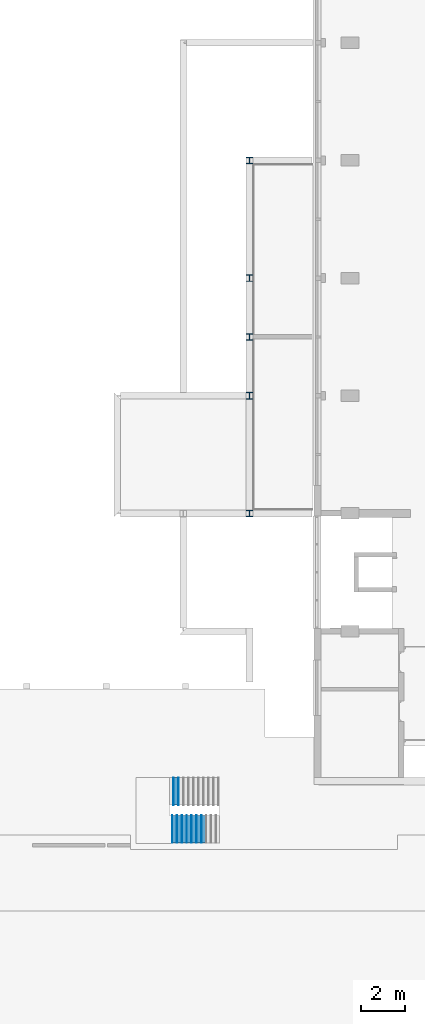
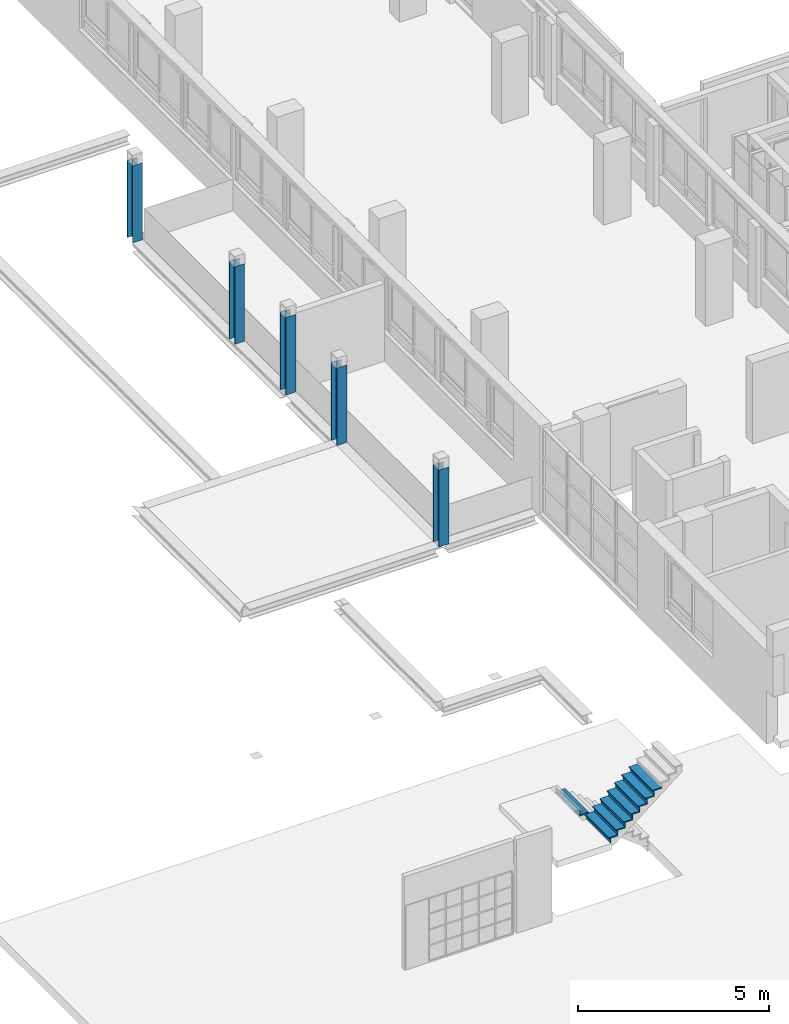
# One storey, part 4 of 22: 17 members, 5 columns, 2 elements without a shape of their own.
"""IFC2X3 building model written with IfcOpenShell, lengths in millimetres."""

import ifcopenshell
import ifcopenshell.guid

model = None  # the IFC model being written
_history = None  # IfcOwnerHistory: only IFC2X3 demands one
_inside = {}  # id of a spatial element -> (the spatial element, [elements in it])
_under = {}  # id of a project, library or spatial element -> (it, [spatial elements below it])
_declared = {}  # id of a project -> (the project, [libraries it declares])
_typed = {}  # id of a type object -> (the type object, [elements of that type])
_made_of = {}  # id of a material, layer set ... -> (it, [elements and type objects made of it])


def new_model(schema):
    """Start an empty IFC model of exactly this schema.

    Asked for "IFC4X3", IfcOpenShell would pick the latest addendum, in which some entities
    have other attributes; the version numbers below select the first issue.
    IFC2X3 requires an IfcOwnerHistory on every rooted entity: one is made here for all.
    """
    global model, _history
    if schema == "IFC4X3":
        model = ifcopenshell.file(schema_version=(4, 3, 0, 0))
    else:
        model = ifcopenshell.file(schema=schema)
    _inside.clear()
    _under.clear()
    _declared.clear()
    _typed.clear()
    _made_of.clear()
    _history = None
    if model.schema == "IFC2X3":
        org = make("IfcOrganization", Name="unknown")
        user = make(
            "IfcPersonAndOrganization",
            ThePerson=make("IfcPerson", FamilyName="unknown"),
            TheOrganization=org,
        )
        app = make(
            "IfcApplication",
            ApplicationDeveloper=org,
            Version="unknown",
            ApplicationFullName="unknown",
            ApplicationIdentifier="unknown",
        )
        _history = make(
            "IfcOwnerHistory",
            OwningUser=user,
            OwningApplication=app,
            ChangeAction="ADDED",
            CreationDate=0,
        )
    return model


def make(cls, **values):
    """One entity of the class cls with the attributes given. An attribute that is None is left unset."""
    return model.create_entity(
        cls, **{name: value for name, value in values.items() if value is not None}
    )


def entity(cls, *values):
    """Any entity or typed value of the class cls, its attributes in the order of the schema. None: left unset."""
    e = model.create_entity(cls)
    for i, value in enumerate(values):
        if value is not None:
            e[i] = value
    return e


def rooted(cls, **values):
    """An entity with a GlobalId (a new one), such as an element, a storey or a relation."""
    return make(cls, GlobalId=ifcopenshell.guid.new(), OwnerHistory=_history, **values)


def si_unit(unit_type, name, prefix=None):
    """IfcSIUnit, for example si_unit("LENGTHUNIT", "METRE", prefix="MILLI")."""
    return make("IfcSIUnit", UnitType=unit_type, Prefix=prefix, Name=name)


def converted_unit(unit_type, name, factor, base, dimensions=None, offset=None):
    """IfcConversionBasedUnit, such as the inch: factor (a typed value) times the base unit."""
    return make(
        "IfcConversionBasedUnit"
        if offset is None
        else "IfcConversionBasedUnitWithOffset",
        ConversionOffset=offset,
        Dimensions=None
        if dimensions is None
        else entity("IfcDimensionalExponents", *dimensions),
        UnitType=unit_type,
        Name=name,
        ConversionFactor=make(
            "IfcMeasureWithUnit", ValueComponent=factor, UnitComponent=base
        ),
    )


def derived_unit(unit_type, elements):
    """IfcDerivedUnit: a product of units, each with its exponent."""
    return make(
        "IfcDerivedUnit",
        Elements=[
            make("IfcDerivedUnitElement", Unit=unit, Exponent=power)
            for unit, power in elements
        ],
        UnitType=unit_type,
    )


def money_unit(currency):
    """IfcMonetaryUnit."""
    return make("IfcMonetaryUnit", Currency=currency)


def assignment(units):
    """IfcUnitAssignment: the units of a project."""
    return None if units is None else make("IfcUnitAssignment", Units=units)


def point(xyz):
    """IfcCartesianPoint."""
    return None if xyz is None else make("IfcCartesianPoint", Coordinates=xyz)


def direction(xyz):
    """IfcDirection."""
    return None if xyz is None else make("IfcDirection", DirectionRatios=xyz)


def frame(location, z_axis=None, x_axis=None):
    """IfcAxis2Placement3D, a coordinate frame: its origin and axes. An axis left out is left unset."""
    return make(
        "IfcAxis2Placement3D",
        Location=point(location),
        Axis=direction(z_axis),
        RefDirection=direction(x_axis),
    )


def origin_with_axes():
    """The frame at (0, 0, 0) with the z axis (0, 0, 1) and the x axis (1, 0, 0) written out."""
    return frame((0.0, 0.0, 0.0), z_axis=(0.0, 0.0, 1.0), x_axis=(1.0, 0.0, 0.0))


def place(relative_to, where):
    """IfcLocalPlacement: puts the frame where relative to a parent placement (None: the world)."""
    return make(
        "IfcLocalPlacement", PlacementRelTo=relative_to, RelativePlacement=where
    )


def context(
    kind, dimensions, precision=None, world=None, true_north=None, identifier=None
):
    """IfcGeometricRepresentationContext, for example the 3D "Model" context."""
    return make(
        "IfcGeometricRepresentationContext",
        ContextIdentifier=identifier,
        ContextType=kind,
        CoordinateSpaceDimension=dimensions,
        Precision=precision,
        WorldCoordinateSystem=world,
        TrueNorth=true_north,
    )


def subcontext(parent, identifier, kind, view, scale=None):
    """IfcGeometricRepresentationSubContext, for example "Body" below "Model"."""
    return make(
        "IfcGeometricRepresentationSubContext",
        ContextIdentifier=identifier,
        ContextType=kind,
        ParentContext=parent,
        TargetScale=scale,
        TargetView=view,
    )


def project(units=None, contexts=None):
    """IfcProject with its units and contexts."""
    return rooted(
        "IfcProject",
        Name="project",
        RepresentationContexts=contexts,
        UnitsInContext=assignment(units),
    )


def spatial(cls, under=None, at=None, **own):
    """A site, building, storey or space (cls), placed at a placement, below another one or the project."""
    s = rooted(cls, ObjectPlacement=at, **own)
    if under is not None:
        _under.setdefault(under.id(), (under, []))[1].append(s)
    return s


def faces_of(points, faces, orient=None, outer=None):
    """IfcFace entities. A face is a list of loops; a loop is a list of indices into points, from 0.

    orient and outer hold one flag for each loop. By default every Orientation is true, the
    first loop of a face is its IfcFaceOuterBound and the others are IfcFaceBound.
    """
    made = []
    for i, loops in enumerate(faces):
        bounds = []
        for j, loop in enumerate(loops):
            is_outer = j == 0 if outer is None else outer[i][j]
            bounds.append(
                make(
                    "IfcFaceOuterBound" if is_outer else "IfcFaceBound",
                    Bound=make("IfcPolyLoop", Polygon=[points[k] for k in loop]),
                    Orientation=True if orient is None else orient[i][j],
                )
            )
        made.append(make("IfcFace", Bounds=bounds))
    return made


def faceted_brep(points, faces, orient=None, outer=None, voids=None):
    """IfcFacetedBrep: a solid bounded by flat faces; with voids (closed shells), ...WithVoids."""
    shared = [point(p) for p in points]
    hull = make("IfcClosedShell", CfsFaces=faces_of(shared, faces, orient, outer))
    if voids is None:
        return make("IfcFacetedBrep", Outer=hull)
    return make(
        "IfcFacetedBrepWithVoids",
        Outer=hull,
        Voids=[
            make(cls, CfsFaces=faces_of(shared, fs, o, b)) for cls, fs, o, b in voids
        ],
    )


def shape(context_of_items, identifier, shape_type, items):
    """IfcShapeRepresentation: the items that make up one representation, for example the "Body"."""
    return make(
        "IfcShapeRepresentation",
        ContextOfItems=context_of_items,
        RepresentationIdentifier=identifier,
        RepresentationType=shape_type,
        Items=items,
    )


def material(Name=None, Category=None):
    """IfcMaterial."""
    return make("IfcMaterial", Name=Name, Category=Category)


def made_of(thing, what):
    """Note that an element or type object is made of a material, layer set ...; save() writes the relation."""
    if what is not None:
        _made_of.setdefault(what.id(), (what, []))[1].append(thing)
    return thing


def type_object(cls, material=None, **own):
    """A type object (cls), such as IfcWallType, which elements share."""
    return made_of(rooted(cls, **own), material)


def element(
    cls,
    number,
    at=None,
    inside=None,
    cuts=None,
    type_object=None,
    material=None,
    context=None,
    identifier="Body",
    shape_type=None,
    held_by="IfcProductDefinitionShape",
    body=None,
    shapes=None,
    **own,
):
    """One element of the class cls, such as IfcWall. Its Tag is "e" and its number.

    at: its placement. inside: the storey or other place that contains it. cuts: it is an
    opening in that element (IfcRelVoidsElement). A single representation is given by context,
    identifier, shape_type and body (its items); several are given by shapes. held_by: the class
    of the entity that holds the representations. save() writes the other relations.
    """
    e = rooted(cls, Tag="e%d" % number, ObjectPlacement=at, **own)
    if body is not None:
        shapes = [shape(context, identifier, shape_type, body)]
    if shapes is not None:
        e.Representation = make(held_by, Representations=shapes)
    if inside is not None:
        _inside.setdefault(inside.id(), (inside, []))[1].append(e)
    if cuts is not None:
        rooted(
            "IfcRelVoidsElement", RelatingBuildingElement=cuts, RelatedOpeningElement=e
        )
    if type_object is not None:
        _typed.setdefault(type_object.id(), (type_object, []))[1].append(e)
    return made_of(e, material)


def aggregate(whole, parts):
    """IfcRelAggregates: a whole, such as a stair, and the parts it consists of."""
    return rooted("IfcRelAggregates", RelatingObject=whole, RelatedObjects=parts)


def save(model, path):
    """Write the relations noted so far, then the file.

    IfcRelAggregates (storeys below a building ...), IfcRelContainedInSpatialStructure (elements
    in a storey), IfcRelDefinesByType, IfcRelAssociatesMaterial and IfcRelDeclares: one each for
    every whole, place, type object, material and project.
    """
    for whole, parts in _under.values():
        aggregate(whole, parts)
    for where, things in _inside.values():
        rooted(
            "IfcRelContainedInSpatialStructure",
            RelatedElements=things,
            RelatingStructure=where,
        )
    for kind, things in _typed.values():
        rooted("IfcRelDefinesByType", RelatedObjects=things, RelatingType=kind)
    for what, things in _made_of.values():
        rooted("IfcRelAssociatesMaterial", RelatedObjects=things, RelatingMaterial=what)
    for by, libraries in _declared.values():
        rooted("IfcRelDeclares", RelatingContext=by, RelatedDefinitions=libraries)
    model.write(path)


model = new_model("IFC2X3")

# Units and contexts
model_context = context("Model", 3, precision=0.01, world=origin_with_axes(), true_north=direction((0.0, 1.0)))
body_context = subcontext(model_context, "Body", "Model", "MODEL_VIEW")
ifc_project = project(units=[si_unit("LENGTHUNIT", "METRE", prefix="MILLI"), si_unit("AREAUNIT", "SQUARE_METRE"), si_unit("VOLUMEUNIT", "CUBIC_METRE"), converted_unit("PLANEANGLEUNIT", "DEGREE", entity("IfcPlaneAngleMeasure", 0.0174532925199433), si_unit("PLANEANGLEUNIT", "RADIAN"), dimensions=[0, 0, 0, 0, 0, 0, 0]), money_unit("EUR"), converted_unit("TIMEUNIT", "Year", entity("IfcTimeMeasure", 31557600.0), si_unit("TIMEUNIT", "SECOND"), dimensions=[0, 0, 1, 0, 0, 0, 0]), si_unit("MASSUNIT", "GRAM", prefix="KILO"), si_unit("THERMODYNAMICTEMPERATUREUNIT", "DEGREE_CELSIUS"), si_unit("LUMINOUSINTENSITYUNIT", "LUMEN"), si_unit("ENERGYUNIT", "JOULE", prefix="MEGA"), derived_unit("THERMALCONDUCTANCEUNIT", [(si_unit("POWERUNIT", "WATT"), 1), (si_unit("LENGTHUNIT", "METRE"), -1), (si_unit("THERMODYNAMICTEMPERATUREUNIT", "KELVIN"), -1)]), derived_unit("SPECIFICHEATCAPACITYUNIT", [(si_unit("ENERGYUNIT", "JOULE"), 1), (si_unit("MASSUNIT", "GRAM", prefix="KILO"), -1), (si_unit("THERMODYNAMICTEMPERATUREUNIT", "KELVIN"), -1)]), derived_unit("MASSDENSITYUNIT", [(si_unit("MASSUNIT", "GRAM", prefix="KILO"), 1), (si_unit("VOLUMEUNIT", "CUBIC_METRE"), -1)])], contexts=[model_context])

# Site, building, storey
site_placement = place(None, origin_with_axes())
site = spatial("IfcSite", under=ifc_project, at=site_placement, Name="Site", CompositionType="ELEMENT")
building_placement = place(site_placement, origin_with_axes())
building = spatial("IfcBuilding", under=site, at=building_placement, Name="Naam gebouw", CompositionType="ELEMENT")
storey_placement = place(building_placement, frame((0.0, 0.0, 8690.0), z_axis=(0.0, 0.0, 1.0), x_axis=(1.0, 0.0, 0.0)))
storey = spatial("IfcBuildingStorey", under=building, at=storey_placement, Name="2e verdieping V", CompositionType="ELEMENT", Elevation=8690.0)

# Columns
ifc_material_1 = material(Name="staal geanodiseerd RAL 7024")
column_type_1 = type_object("IfcColumnType", Name="NLRS_28_SCO_staal - kolom - HEB:HE300B", PredefinedType="COLUMN")
column_1_placement = place(storey_placement, frame((17291.00000002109, 35945.91242627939, 0.0), z_axis=(0.0, 0.0, 1.0), x_axis=(1.0, 0.0, 0.0)))
element("IfcColumn", 1, at=column_1_placement, inside=storey, type_object=column_type_1, material=ifc_material_1, Name="NLRS_28_SCO_staal - kolom - HEB:HE300B", ObjectType="COLUMN", context=body_context, shape_type="Brep", body=[
    faceted_brep([(-149.9999999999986, 149.9999999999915, 2470.000000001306), (-149.9999999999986, 149.9999999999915, 0.0), (-149.9999999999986, 130.9999999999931, 0.0), (-149.9999999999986, 130.9999999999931, 2470.000000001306), (150.0000000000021, 149.9999999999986, 2470.000000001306), (150.0000000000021, 149.9999999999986, 0.0), (149.9999999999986, 131.0000000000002, 0.0), (32.49999999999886, 131.0000000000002, 0.0), (19.0000000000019, 127.3826859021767, 0.0), (9.11731409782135, 117.4999999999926, 0.0), (5.500000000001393, 103.9999999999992, 0.0), (5.49999999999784, -103.9999999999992, 0.0), (9.11731409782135, -117.5000000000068, 0.0), (19.0000000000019, -127.3826859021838, 0.0), (32.49999999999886, -131.0000000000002, 0.0), (149.9999999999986, -131.0000000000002, 0.0), (150.0000000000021, -149.9999999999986, 0.0), (-149.9999999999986, -150.0000000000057, 0.0), (-149.9999999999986, -131.0000000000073, 0.0), (-32.49999999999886, -131.0000000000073, 0.0), (-18.99999999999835, -127.3826859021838, 0.0), (-9.11731409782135, -117.4999999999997, 0.0), (-5.500000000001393, -104.0000000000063, 0.0), (-5.49999999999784, 103.9999999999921, 0.0), (-9.11731409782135, 117.4999999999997, 0.0), (-18.99999999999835, 127.3826859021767, 0.0), (-32.49999999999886, 130.9999999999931, 0.0), (-32.49999999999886, 130.9999999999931, 2470.000000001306), (-18.99999999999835, 127.3826859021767, 2470.000000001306), (-9.11731409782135, 117.4999999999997, 2470.000000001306), (-5.49999999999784, 103.9999999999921, 2470.000000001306), (-5.500000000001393, -104.0000000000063, 2470.000000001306), (-9.11731409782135, -117.4999999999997, 2470.000000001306), (-18.99999999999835, -127.3826859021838, 2470.000000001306), (-32.49999999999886, -131.0000000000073, 2470.000000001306), (-149.9999999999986, -131.0000000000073, 2470.000000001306), (-149.9999999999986, -150.0000000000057, 2470.000000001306), (150.0000000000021, -149.9999999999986, 2470.000000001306), (149.9999999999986, -131.0000000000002, 2470.000000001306), (32.49999999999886, -131.0000000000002, 2470.000000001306), (19.0000000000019, -127.3826859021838, 2470.000000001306), (9.11731409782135, -117.5000000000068, 2470.000000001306), (5.49999999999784, -103.9999999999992, 2470.000000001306), (5.500000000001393, 103.9999999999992, 2470.000000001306), (9.11731409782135, 117.4999999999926, 2470.000000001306), (19.0000000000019, 127.3826859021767, 2470.000000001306), (32.49999999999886, 131.0000000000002, 2470.000000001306), (149.9999999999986, 131.0000000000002, 2470.000000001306)], [[[0, 1, 2, 3]], [[4, 5, 1, 0]], [[2, 1, 5, 6, 7, 8, 9, 10, 11, 12, 13, 14, 15, 16, 17, 18, 19, 20, 21, 22, 23, 24, 25, 26]], [[3, 2, 26, 27]], [[4, 0, 3, 27, 28, 29, 30, 31, 32, 33, 34, 35, 36, 37, 38, 39, 40, 41, 42, 43, 44, 45, 46, 47]], [[47, 6, 5, 4]], [[46, 7, 6, 47]], [[45, 8, 7, 46]], [[44, 9, 8, 45]], [[43, 10, 9, 44]], [[42, 11, 10, 43]], [[41, 12, 11, 42]], [[40, 13, 12, 41]], [[39, 14, 13, 40]], [[38, 15, 14, 39]], [[37, 16, 15, 38]], [[36, 17, 16, 37]], [[35, 18, 17, 36]], [[34, 19, 18, 35]], [[33, 20, 19, 34]], [[32, 21, 20, 33]], [[31, 22, 21, 32]], [[30, 23, 22, 31]], [[29, 24, 23, 30]], [[28, 25, 24, 29]], [[27, 26, 25, 28]]]),
])
column_2_placement = place(storey_placement, frame((17291.00000005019, 33285.912426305, 0.0), z_axis=(0.0, 0.0, 1.0), x_axis=(1.0, 0.0, 0.0)))
element("IfcColumn", 2, at=column_2_placement, inside=storey, type_object=column_type_1, material=ifc_material_1, Name="NLRS_28_SCO_staal - kolom - HEB:HE300B", ObjectType="COLUMN", context=body_context, shape_type="Brep", body=[
    faceted_brep([(-150.0000000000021, 149.9999999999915, 2470.000000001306), (-150.0000000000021, 149.9999999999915, 0.0), (-149.9999999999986, 130.9999999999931, 0.0), (-149.9999999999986, 130.9999999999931, 2470.000000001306), (149.9999999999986, 149.9999999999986, 2470.000000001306), (149.9999999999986, 149.9999999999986, 0.0), (149.9999999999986, 131.0000000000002, 0.0), (32.49999999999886, 131.0000000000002, 0.0), (18.99999999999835, 127.3826859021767, 0.0), (9.11731409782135, 117.4999999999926, 0.0), (5.500000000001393, 103.9999999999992, 0.0), (5.49999999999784, -103.9999999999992, 0.0), (9.11731409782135, -117.5000000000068, 0.0), (18.99999999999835, -127.3826859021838, 0.0), (32.49999999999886, -131.0000000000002, 0.0), (149.9999999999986, -131.0000000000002, 0.0), (149.9999999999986, -149.9999999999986, 0.0), (-150.0000000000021, -150.0000000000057, 0.0), (-149.9999999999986, -131.0000000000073, 0.0), (-32.49999999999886, -131.0000000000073, 0.0), (-19.0000000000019, -127.3826859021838, 0.0), (-9.11731409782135, -117.4999999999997, 0.0), (-5.500000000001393, -104.0000000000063, 0.0), (-5.49999999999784, 103.9999999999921, 0.0), (-9.11731409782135, 117.4999999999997, 0.0), (-19.0000000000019, 127.3826859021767, 0.0), (-32.49999999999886, 130.9999999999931, 0.0), (-32.49999999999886, 130.9999999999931, 2470.000000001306), (-19.0000000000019, 127.3826859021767, 2470.000000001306), (-9.11731409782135, 117.4999999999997, 2470.000000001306), (-5.49999999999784, 103.9999999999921, 2470.000000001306), (-5.500000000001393, -104.0000000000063, 2470.000000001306), (-9.11731409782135, -117.4999999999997, 2470.000000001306), (-19.0000000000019, -127.3826859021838, 2470.000000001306), (-32.49999999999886, -131.0000000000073, 2470.000000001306), (-149.9999999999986, -131.0000000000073, 2470.000000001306), (-150.0000000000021, -150.0000000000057, 2470.000000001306), (149.9999999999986, -149.9999999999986, 2470.000000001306), (149.9999999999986, -131.0000000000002, 2470.000000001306), (32.49999999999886, -131.0000000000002, 2470.000000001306), (18.99999999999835, -127.3826859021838, 2470.000000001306), (9.11731409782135, -117.5000000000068, 2470.000000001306), (5.49999999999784, -103.9999999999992, 2470.000000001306), (5.500000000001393, 103.9999999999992, 2470.000000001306), (9.11731409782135, 117.4999999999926, 2470.000000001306), (18.99999999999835, 127.3826859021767, 2470.000000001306), (32.49999999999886, 131.0000000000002, 2470.000000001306), (149.9999999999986, 131.0000000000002, 2470.000000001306)], [[[0, 1, 2, 3]], [[4, 5, 1, 0]], [[2, 1, 5, 6, 7, 8, 9, 10, 11, 12, 13, 14, 15, 16, 17, 18, 19, 20, 21, 22, 23, 24, 25, 26]], [[3, 2, 26, 27]], [[4, 0, 3, 27, 28, 29, 30, 31, 32, 33, 34, 35, 36, 37, 38, 39, 40, 41, 42, 43, 44, 45, 46, 47]], [[47, 6, 5, 4]], [[46, 7, 6, 47]], [[45, 8, 7, 46]], [[44, 9, 8, 45]], [[43, 10, 9, 44]], [[42, 11, 10, 43]], [[41, 12, 11, 42]], [[40, 13, 12, 41]], [[39, 14, 13, 40]], [[38, 15, 14, 39]], [[37, 16, 15, 38]], [[36, 17, 16, 37]], [[35, 18, 17, 36]], [[34, 19, 18, 35]], [[33, 20, 19, 34]], [[32, 21, 20, 33]], [[31, 22, 21, 32]], [[30, 23, 22, 31]], [[29, 24, 23, 30]], [[28, 25, 24, 29]], [[27, 26, 25, 28]]]),
])
column_3_placement = place(storey_placement, frame((17291.00000002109, 38615.9124263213, 0.0), z_axis=(0.0, 0.0, 1.0), x_axis=(1.0, 0.0, 0.0)))
element("IfcColumn", 3, at=column_3_placement, inside=storey, type_object=column_type_1, material=ifc_material_1, Name="NLRS_28_SCO_staal - kolom - HEB:HE300B", ObjectType="COLUMN", context=body_context, shape_type="Brep", body=[
    faceted_brep([(-149.9999999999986, 149.9999999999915, 2470.000000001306), (-149.9999999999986, 149.9999999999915, 0.0), (-149.9999999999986, 130.9999999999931, 0.0), (-149.9999999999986, 130.9999999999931, 2470.000000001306), (150.0000000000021, 149.9999999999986, 2470.000000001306), (150.0000000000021, 149.9999999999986, 0.0), (149.9999999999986, 131.0000000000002, 0.0), (32.49999999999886, 131.0000000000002, 0.0), (19.0000000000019, 127.3826859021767, 0.0), (9.11731409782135, 117.4999999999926, 0.0), (5.500000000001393, 103.9999999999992, 0.0), (5.500000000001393, -103.9999999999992, 0.0), (9.11731409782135, -117.5000000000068, 0.0), (19.0000000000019, -127.3826859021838, 0.0), (32.49999999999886, -131.0000000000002, 0.0), (149.9999999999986, -131.0000000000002, 0.0), (150.0000000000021, -149.9999999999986, 0.0), (-149.9999999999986, -150.0000000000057, 0.0), (-149.9999999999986, -131.0000000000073, 0.0), (-32.49999999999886, -131.0000000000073, 0.0), (-18.99999999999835, -127.3826859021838, 0.0), (-9.11731409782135, -117.4999999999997, 0.0), (-5.49999999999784, -104.0000000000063, 0.0), (-5.49999999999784, 103.9999999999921, 0.0), (-9.11731409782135, 117.4999999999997, 0.0), (-18.99999999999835, 127.3826859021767, 0.0), (-32.49999999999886, 130.9999999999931, 0.0), (-32.49999999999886, 130.9999999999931, 2470.000000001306), (-18.99999999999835, 127.3826859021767, 2470.000000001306), (-9.11731409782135, 117.4999999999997, 2470.000000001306), (-5.49999999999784, 103.9999999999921, 2470.000000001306), (-5.49999999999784, -104.0000000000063, 2470.000000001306), (-9.11731409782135, -117.4999999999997, 2470.000000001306), (-18.99999999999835, -127.3826859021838, 2470.000000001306), (-32.49999999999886, -131.0000000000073, 2470.000000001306), (-149.9999999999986, -131.0000000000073, 2470.000000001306), (-149.9999999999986, -150.0000000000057, 2470.000000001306), (150.0000000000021, -149.9999999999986, 2470.000000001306), (149.9999999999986, -131.0000000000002, 2470.000000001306), (32.49999999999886, -131.0000000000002, 2470.000000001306), (19.0000000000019, -127.3826859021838, 2470.000000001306), (9.11731409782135, -117.5000000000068, 2470.000000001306), (5.500000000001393, -103.9999999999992, 2470.000000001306), (5.500000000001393, 103.9999999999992, 2470.000000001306), (9.11731409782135, 117.4999999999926, 2470.000000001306), (19.0000000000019, 127.3826859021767, 2470.000000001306), (32.49999999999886, 131.0000000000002, 2470.000000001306), (149.9999999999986, 131.0000000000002, 2470.000000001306)], [[[0, 1, 2, 3]], [[4, 5, 1, 0]], [[2, 1, 5, 6, 7, 8, 9, 10, 11, 12, 13, 14, 15, 16, 17, 18, 19, 20, 21, 22, 23, 24, 25, 26]], [[3, 2, 26, 27]], [[4, 0, 3, 27, 28, 29, 30, 31, 32, 33, 34, 35, 36, 37, 38, 39, 40, 41, 42, 43, 44, 45, 46, 47]], [[47, 6, 5, 4]], [[46, 7, 6, 47]], [[45, 8, 7, 46]], [[44, 9, 8, 45]], [[43, 10, 9, 44]], [[42, 11, 10, 43]], [[41, 12, 11, 42]], [[40, 13, 12, 41]], [[39, 14, 13, 40]], [[38, 15, 14, 39]], [[37, 16, 15, 38]], [[36, 17, 16, 37]], [[35, 18, 17, 36]], [[34, 19, 18, 35]], [[33, 20, 19, 34]], [[32, 21, 20, 33]], [[31, 22, 21, 32]], [[30, 23, 22, 31]], [[29, 24, 23, 30]], [[28, 25, 24, 29]], [[27, 26, 25, 28]]]),
])
column_type_2 = type_object("IfcColumnType", Name="NLRS_28_SCO_staal - kolom - HEB:HE300B", PredefinedType="COLUMN")
column_4_placement = place(storey_placement, frame((17292.00000006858, 27955.91242634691, 0.0), z_axis=(0.0, 0.0, 1.0), x_axis=(1.0, 0.0, 0.0)))
element("IfcColumn", 4, at=column_4_placement, inside=storey, type_object=column_type_2, material=ifc_material_1, Name="NLRS_28_SCO_staal - kolom - HEB:HE300B", ObjectType="COLUMN", context=body_context, shape_type="Brep", body=[
    faceted_brep([(-149.9999999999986, 150.0000000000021, 2450.000000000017), (-149.9999999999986, 150.0000000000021, 0.0), (-149.9999999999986, 131.0000000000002, 0.0), (-149.9999999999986, 131.0000000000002, 2450.000000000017), (150.0000000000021, 150.0000000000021, 2450.000000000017), (150.0000000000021, 150.0000000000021, 0.0), (149.9999999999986, 131.0000000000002, 0.0), (32.49999999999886, 131.0000000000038, 0.0), (19.0000000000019, 127.3826859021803, 0.0), (9.11731409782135, 117.5000000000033, 0.0), (5.500000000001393, 103.9999999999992, 0.0), (5.49999999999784, -103.9999999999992, 0.0), (9.11731409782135, -117.4999999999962, 0.0), (19.0000000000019, -127.3826859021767, 0.0), (32.49999999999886, -130.9999999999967, 0.0), (149.9999999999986, -130.9999999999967, 0.0), (150.0000000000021, -149.9999999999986, 0.0), (-149.9999999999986, -149.9999999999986, 0.0), (-149.9999999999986, -130.9999999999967, 0.0), (-32.49999999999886, -130.9999999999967, 0.0), (-18.99999999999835, -127.3826859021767, 0.0), (-9.11731409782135, -117.4999999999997, 0.0), (-5.500000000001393, -103.9999999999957, 0.0), (-5.49999999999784, 104.0000000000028, 0.0), (-9.11731409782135, 117.4999999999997, 0.0), (-18.99999999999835, 127.3826859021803, 0.0), (-32.49999999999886, 131.0000000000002, 0.0), (-32.49999999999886, 131.0000000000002, 2450.000000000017), (-18.99999999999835, 127.3826859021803, 2450.000000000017), (-9.11731409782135, 117.4999999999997, 2450.000000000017), (-5.49999999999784, 104.0000000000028, 2450.000000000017), (-5.500000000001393, -103.9999999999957, 2450.000000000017), (-9.11731409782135, -117.4999999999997, 2450.000000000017), (-18.99999999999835, -127.3826859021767, 2450.000000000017), (-32.49999999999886, -130.9999999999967, 2450.000000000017), (-149.9999999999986, -130.9999999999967, 2450.000000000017), (-149.9999999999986, -149.9999999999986, 2450.000000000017), (150.0000000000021, -149.9999999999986, 2450.000000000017), (149.9999999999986, -130.9999999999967, 2450.000000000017), (32.49999999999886, -130.9999999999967, 2450.000000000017), (19.0000000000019, -127.3826859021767, 2450.000000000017), (9.11731409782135, -117.4999999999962, 2450.000000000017), (5.49999999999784, -103.9999999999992, 2450.000000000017), (5.500000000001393, 103.9999999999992, 2450.000000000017), (9.11731409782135, 117.5000000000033, 2450.000000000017), (19.0000000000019, 127.3826859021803, 2450.000000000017), (32.49999999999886, 131.0000000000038, 2450.000000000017), (149.9999999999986, 131.0000000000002, 2450.000000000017)], [[[0, 1, 2, 3]], [[4, 5, 1, 0]], [[2, 1, 5, 6, 7, 8, 9, 10, 11, 12, 13, 14, 15, 16, 17, 18, 19, 20, 21, 22, 23, 24, 25, 26]], [[3, 2, 26, 27]], [[4, 0, 3, 27, 28, 29, 30, 31, 32, 33, 34, 35, 36, 37, 38, 39, 40, 41, 42, 43, 44, 45, 46, 47]], [[47, 6, 5, 4]], [[46, 7, 6, 47]], [[45, 8, 7, 46]], [[44, 9, 8, 45]], [[43, 10, 9, 44]], [[42, 11, 10, 43]], [[41, 12, 11, 42]], [[40, 13, 12, 41]], [[39, 14, 13, 40]], [[38, 15, 14, 39]], [[37, 16, 15, 38]], [[36, 17, 16, 37]], [[35, 18, 17, 36]], [[34, 19, 18, 35]], [[33, 20, 19, 34]], [[32, 21, 20, 33]], [[31, 22, 21, 32]], [[30, 23, 22, 31]], [[29, 24, 23, 30]], [[28, 25, 24, 29]], [[27, 26, 25, 28]]]),
])
column_type_3 = type_object("IfcColumnType", Name="NLRS_28_SCO_staal - kolom - HEB:HE300B", PredefinedType="COLUMN")
column_5_placement = place(storey_placement, frame((17292.00000003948, 43945.91242627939, 0.0), z_axis=(0.0, 0.0, 1.0), x_axis=(0.0, -1.0, 0.0)))
element("IfcColumn", 5, at=column_5_placement, inside=storey, type_object=column_type_3, material=ifc_material_1, Name="NLRS_28_SCO_staal - kolom - HEB:HE300B", ObjectType="COLUMN", context=body_context, shape_type="Brep", body=[
    faceted_brep([(-149.9999999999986, -150.0000000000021, 2450.000000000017), (-149.9999999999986, -150.0000000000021, 0.0), (-131.0000000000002, -149.9999999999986, 0.0), (-131.0000000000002, -149.9999999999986, 2450.000000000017), (-149.9999999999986, 149.9999999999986, 2450.000000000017), (-149.9999999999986, 149.9999999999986, 0.0), (-131.0000000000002, 149.9999999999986, 0.0), (-131.0000000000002, 32.49999999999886, 0.0), (-127.3826859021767, 18.99999999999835, 0.0), (-117.4999999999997, 9.11731409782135, 0.0), (-103.9999999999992, 5.49999999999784, 0.0), (103.9999999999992, 5.49999999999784, 0.0), (117.4999999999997, 9.11731409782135, 0.0), (127.3826859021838, 18.99999999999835, 0.0), (131.0000000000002, 32.49999999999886, 0.0), (131.0000000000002, 149.9999999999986, 0.0), (149.9999999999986, 149.9999999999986, 0.0), (149.9999999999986, -150.0000000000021, 0.0), (131.0000000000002, -149.9999999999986, 0.0), (131.0000000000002, -32.49999999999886, 0.0), (127.3826859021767, -19.0000000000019, 0.0), (117.4999999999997, -9.11731409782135, 0.0), (103.9999999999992, -5.500000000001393, 0.0), (-103.9999999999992, -5.500000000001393, 0.0), (-117.4999999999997, -9.11731409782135, 0.0), (-127.3826859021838, -19.0000000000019, 0.0), (-131.0000000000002, -32.49999999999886, 0.0), (-131.0000000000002, -32.49999999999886, 2450.000000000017), (-127.3826859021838, -19.0000000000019, 2450.000000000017), (-117.4999999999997, -9.11731409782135, 2450.000000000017), (-103.9999999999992, -5.500000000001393, 2450.000000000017), (103.9999999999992, -5.500000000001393, 2450.000000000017), (117.4999999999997, -9.11731409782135, 2450.000000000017), (127.3826859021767, -19.0000000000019, 2450.000000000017), (131.0000000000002, -32.49999999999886, 2450.000000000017), (131.0000000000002, -149.9999999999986, 2450.000000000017), (149.9999999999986, -150.0000000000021, 2450.000000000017), (149.9999999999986, 149.9999999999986, 2450.000000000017), (131.0000000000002, 149.9999999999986, 2450.000000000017), (131.0000000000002, 32.49999999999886, 2450.000000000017), (127.3826859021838, 18.99999999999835, 2450.000000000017), (117.4999999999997, 9.11731409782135, 2450.000000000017), (103.9999999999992, 5.49999999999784, 2450.000000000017), (-103.9999999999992, 5.49999999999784, 2450.000000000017), (-117.4999999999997, 9.11731409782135, 2450.000000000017), (-127.3826859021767, 18.99999999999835, 2450.000000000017), (-131.0000000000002, 32.49999999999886, 2450.000000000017), (-131.0000000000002, 149.9999999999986, 2450.000000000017)], [[[0, 1, 2, 3]], [[4, 5, 1, 0]], [[2, 1, 5, 6, 7, 8, 9, 10, 11, 12, 13, 14, 15, 16, 17, 18, 19, 20, 21, 22, 23, 24, 25, 26]], [[3, 2, 26, 27]], [[4, 0, 3, 27, 28, 29, 30, 31, 32, 33, 34, 35, 36, 37, 38, 39, 40, 41, 42, 43, 44, 45, 46, 47]], [[47, 6, 5, 4]], [[46, 7, 6, 47]], [[45, 8, 7, 46]], [[44, 9, 8, 45]], [[43, 10, 9, 44]], [[42, 11, 10, 43]], [[41, 12, 11, 42]], [[40, 13, 12, 41]], [[39, 14, 13, 40]], [[38, 15, 14, 39]], [[37, 16, 15, 38]], [[36, 17, 16, 37]], [[35, 18, 17, 36]], [[34, 19, 18, 35]], [[33, 20, 19, 34]], [[32, 21, 20, 33]], [[31, 22, 21, 32]], [[30, 23, 22, 31]], [[29, 24, 23, 30]], [[28, 25, 24, 29]], [[27, 26, 25, 28]]]),
])

# Stair, members
stair_1_placement = place(storey_placement, frame((13740.50051848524, 14274.60803964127, 710.0000000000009), z_axis=(0.0, 0.0, 1.0), x_axis=(-1.0, 0.0, 0.0)))
stair_1 = element("IfcStair", 6, at=stair_1_placement, inside=storey, Name="_Trap-x", ShapeType="NOTDEFINED")
ifc_material_2 = material(Name="Hout - Vloer")
member_type_1 = type_object("IfcMemberType", Name="IfcMember", PredefinedType="USERDEFINED")
member_1_placement = place(stair_1_placement, frame((0.0, 619.9999999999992, 175.0000000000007), z_axis=(0.0, 0.0, 1.0), x_axis=(0.0, 1.0, 0.0)))
member_1 = element("IfcMember", 7, at=member_1_placement, type_object=member_type_1, material=ifc_material_2, Name="_Traptrede-x", context=body_context, shape_type="Brep", body=[
    faceted_brep([(-620.0, 0.0, -38.0), (620.0, 0.0, -38.0), (620.0, 0.0, 0.0), (-620.0, 0.0, 0.0), (-620.0, 278.0, -38.0), (620.0, 278.0000000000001, -38.0), (620.0, 278.0000000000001, 0.0), (-620.0, 278.0, 0.0)], [[[0, 1, 2, 3]], [[0, 4, 5, 1]], [[1, 5, 6, 2]], [[3, 2, 6, 7]], [[4, 0, 3, 7]], [[5, 4, 7, 6]]]),
])
member_2_placement = place(stair_1_placement, frame((-220.0000000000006, 620.000000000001, 349.9999999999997), z_axis=(0.0, 0.0, 1.0), x_axis=(0.0, 1.0, 0.0)))
member_2 = element("IfcMember", 8, at=member_2_placement, type_object=member_type_1, material=ifc_material_2, Name="_Traptrede-x", context=body_context, shape_type="Brep", body=[
    faceted_brep([(-620.0, 0.0, -38.0), (620.0, 0.0, -38.0), (620.0, 0.0, 0.0), (-620.0, 0.0, 0.0), (-620.0, 278.0, -38.0), (620.0, 278.0000000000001, -38.0), (620.0, 278.0000000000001, 0.0), (-620.0, 278.0, 0.0)], [[[0, 1, 2, 3]], [[0, 4, 5, 1]], [[1, 5, 6, 2]], [[3, 2, 6, 7]], [[4, 0, 3, 7]], [[5, 4, 7, 6]]]),
])
member_3_placement = place(stair_1_placement, frame((-439.9999999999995, 620.000000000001, 525.0000000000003), z_axis=(0.0, 0.0, 1.0), x_axis=(0.0, 1.0, 0.0)))
member_3 = element("IfcMember", 9, at=member_3_placement, type_object=member_type_1, material=ifc_material_2, Name="_Traptrede-x", context=body_context, shape_type="Brep", body=[
    faceted_brep([(-620.0, 0.0, -38.0), (620.0, 0.0, -38.0), (620.0, 0.0, 0.0), (-620.0, 0.0, 0.0), (-620.0, 278.0, -38.0), (620.0, 278.0000000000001, -38.0), (620.0, 278.0000000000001, 0.0), (-620.0, 278.0, 0.0)], [[[0, 1, 2, 3]], [[0, 4, 5, 1]], [[1, 5, 6, 2]], [[3, 2, 6, 7]], [[4, 0, 3, 7]], [[5, 4, 7, 6]]]),
])
member_4_placement = place(stair_1_placement, frame((-880.0000000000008, 620.000000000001, 875.0), z_axis=(0.0, 0.0, 1.0), x_axis=(0.0, 1.0, 0.0)))
member_4 = element("IfcMember", 10, at=member_4_placement, type_object=member_type_1, material=ifc_material_2, Name="_Traptrede-x", context=body_context, shape_type="Brep", body=[
    faceted_brep([(-620.0, 0.0, -38.0), (620.0, 0.0, -38.0), (620.0, 0.0, 0.0), (-620.0, 0.0, 0.0), (-620.0, 278.0, -38.0), (620.0, 278.0000000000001, -38.0), (620.0, 278.0000000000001, 0.0), (-620.0, 278.0, 0.0)], [[[0, 1, 2, 3]], [[0, 4, 5, 1]], [[1, 5, 6, 2]], [[3, 2, 6, 7]], [[4, 0, 3, 7]], [[5, 4, 7, 6]]]),
])
member_5_placement = place(stair_1_placement, frame((-1100.0, 620.000000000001, 1049.999999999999), z_axis=(0.0, 0.0, 1.0), x_axis=(0.0, 1.0, 0.0)))
member_5 = element("IfcMember", 11, at=member_5_placement, type_object=member_type_1, material=ifc_material_2, Name="_Traptrede-x", context=body_context, shape_type="Brep", body=[
    faceted_brep([(-620.0, 0.0, -38.0), (620.0, 0.0, -38.0), (620.0, 0.0, 0.0), (-620.0, 0.0, 0.0), (-620.0, 278.0, -38.0), (620.0, 278.0000000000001, -38.0), (620.0, 278.0000000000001, 0.0), (-620.0, 278.0, 0.0)], [[[0, 1, 2, 3]], [[0, 4, 5, 1]], [[1, 5, 6, 2]], [[3, 2, 6, 7]], [[4, 0, 3, 7]], [[5, 4, 7, 6]]]),
])
member_6_placement = place(stair_1_placement, frame((-1320.0, 620.000000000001, 1225.0), z_axis=(0.0, 0.0, 1.0), x_axis=(0.0, 1.0, 0.0)))
member_6 = element("IfcMember", 12, at=member_6_placement, type_object=member_type_1, material=ifc_material_2, Name="_Traptrede-x", context=body_context, shape_type="Brep", body=[
    faceted_brep([(-620.0, 0.0, -38.0), (620.0, 0.0, -38.0), (620.0, 0.0, 0.0), (-620.0, 0.0, 0.0), (-620.0, 278.0, -38.0), (620.0, 278.0000000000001, -38.0), (620.0, 278.0000000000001, 0.0), (-620.0, 278.0, 0.0)], [[[0, 1, 2, 3]], [[0, 4, 5, 1]], [[1, 5, 6, 2]], [[3, 2, 6, 7]], [[4, 0, 3, 7]], [[5, 4, 7, 6]]]),
])
member_7_placement = place(stair_1_placement, frame((-660.0000000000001, 620.000000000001, 699.9999999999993), z_axis=(0.0, 0.0, 1.0), x_axis=(0.0, 1.0, 0.0)))
member_7 = element("IfcMember", 13, at=member_7_placement, type_object=member_type_1, material=ifc_material_2, Name="_Traptrede-x", context=body_context, shape_type="Brep", body=[
    faceted_brep([(-620.0, 0.0, -38.0), (620.0, 0.0, -38.0), (620.0, 0.0, 0.0), (-620.0, 0.0, 0.0), (-620.0, 278.0, -38.0), (620.0, 278.0000000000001, -38.0), (620.0, 278.0000000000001, 0.0), (-620.0, 278.0, 0.0)], [[[0, 1, 2, 3]], [[0, 4, 5, 1]], [[1, 5, 6, 2]], [[3, 2, 6, 7]], [[4, 0, 3, 7]], [[5, 4, 7, 6]]]),
])

# Stair, member
stair_2_placement = place(storey_placement, frame((15940.50051848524, 14745.86936824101, -1039.999999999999), z_axis=(0.0, 0.0, 1.0), x_axis=(1.0, 0.0, 0.0)))
stair_2 = element("IfcStair", 14, at=stair_2_placement, inside=storey, Name="_Trap-x", ShapeType="NOTDEFINED")
member_8_placement = place(stair_2_placement, frame((-1816.000000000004, 620.000000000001, 1574.999999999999), z_axis=(0.0, 0.0, 1.0), x_axis=(0.0, 1.0, 0.0)))
member_8 = element("IfcMember", 15, at=member_8_placement, type_object=member_type_1, material=ifc_material_2, Name="_Traptrede-x", context=body_context, shape_type="Brep", body=[
    faceted_brep([(-620.0, 0.0, -38.0), (620.0, 0.0, -38.0), (620.0, 0.0, 0.0), (-620.0, 0.0, 0.0), (-620.0, 285.0000000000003, -38.0), (620.0, 285.000000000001, -38.0), (620.0, 285.000000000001, 0.0), (-620.0, 285.0000000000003, 0.0)], [[[0, 1, 2, 3]], [[0, 4, 5, 1]], [[1, 5, 6, 2]], [[3, 2, 6, 7]], [[4, 0, 3, 7]], [[5, 4, 7, 6]]]),
])

# Member
member_type_2 = type_object("IfcMemberType", Name="IfcMember", PredefinedType="USERDEFINED")
member_9_placement = place(stair_1_placement, frame((0.0, 619.9999999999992, 137.0000000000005), z_axis=(0.0, 0.0, 1.0), x_axis=(0.0, 1.0, 0.0)))
member_9 = element("IfcMember", 16, at=member_9_placement, type_object=member_type_2, material=ifc_material_2, Name="_Stootbord-x", context=body_context, shape_type="Brep", body=[
    faceted_brep([(620.0, 40.00000000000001, 0.0), (620.0, 58.00000000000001, 0.0), (-620.0, 57.99999999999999, 0.0), (-620.0, 40.0, 0.0), (620.0, 40.00000000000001, -137.0), (620.0, 58.00000000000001, -137.0), (-620.0, 58.00000000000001, -137.0), (-620.0, 40.00000000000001, -137.0)], [[[0, 1, 2, 3]], [[0, 4, 5, 1]], [[1, 5, 6, 2]], [[3, 2, 6, 7]], [[4, 0, 3, 7]], [[5, 4, 7, 6]]]),
])

member_10_placement = place(stair_1_placement, frame((-220.0000000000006, 620.000000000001, 311.9999999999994), z_axis=(0.0, 0.0, 1.0), x_axis=(0.0, 1.0, 0.0)))
member_10 = element("IfcMember", 17, at=member_10_placement, type_object=member_type_2, material=ifc_material_2, Name="_Stootbord-x", context=body_context, shape_type="Brep", body=[
    faceted_brep([(620.0, 40.00000000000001, 0.0), (620.0, 58.00000000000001, 0.0), (-620.0, 57.99999999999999, 0.0), (-620.0, 40.0, 0.0), (620.0, 40.00000000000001, -137.0), (620.0, 58.00000000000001, -137.0), (-620.0, 58.00000000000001, -137.0), (-620.0, 40.00000000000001, -137.0)], [[[0, 1, 2, 3]], [[0, 4, 5, 1]], [[1, 5, 6, 2]], [[3, 2, 6, 7]], [[4, 0, 3, 7]], [[5, 4, 7, 6]]]),
])

member_11_placement = place(stair_1_placement, frame((-439.9999999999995, 620.000000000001, 487.0000000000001), z_axis=(0.0, 0.0, 1.0), x_axis=(0.0, 1.0, 0.0)))
member_11 = element("IfcMember", 18, at=member_11_placement, type_object=member_type_2, material=ifc_material_2, Name="_Stootbord-x", context=body_context, shape_type="Brep", body=[
    faceted_brep([(620.0, 40.00000000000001, 0.0), (620.0, 58.00000000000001, 0.0), (-620.0, 57.99999999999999, 0.0), (-620.0, 40.0, 0.0), (620.0, 40.00000000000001, -137.0), (620.0, 58.00000000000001, -137.0), (-620.0, 58.00000000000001, -137.0), (-620.0, 40.00000000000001, -137.0)], [[[0, 1, 2, 3]], [[0, 4, 5, 1]], [[1, 5, 6, 2]], [[3, 2, 6, 7]], [[4, 0, 3, 7]], [[5, 4, 7, 6]]]),
])

member_12_placement = place(stair_1_placement, frame((-660.0000000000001, 620.000000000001, 662.0000000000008), z_axis=(0.0, 0.0, 1.0), x_axis=(0.0, 1.0, 0.0)))
member_12 = element("IfcMember", 19, at=member_12_placement, type_object=member_type_2, material=ifc_material_2, Name="_Stootbord-x", context=body_context, shape_type="Brep", body=[
    faceted_brep([(620.0, 40.00000000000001, 0.0), (620.0, 58.00000000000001, 0.0), (-620.0, 57.99999999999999, 0.0), (-620.0, 40.0, 0.0), (620.0, 40.00000000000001, -137.0), (620.0, 58.00000000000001, -137.0), (-620.0, 58.00000000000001, -137.0), (-620.0, 40.00000000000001, -137.0)], [[[0, 1, 2, 3]], [[0, 4, 5, 1]], [[1, 5, 6, 2]], [[3, 2, 6, 7]], [[4, 0, 3, 7]], [[5, 4, 7, 6]]]),
])

member_13_placement = place(stair_1_placement, frame((-880.0000000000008, 620.000000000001, 836.9999999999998), z_axis=(0.0, 0.0, 1.0), x_axis=(0.0, 1.0, 0.0)))
member_13 = element("IfcMember", 20, at=member_13_placement, type_object=member_type_2, material=ifc_material_2, Name="_Stootbord-x", context=body_context, shape_type="Brep", body=[
    faceted_brep([(620.0, 40.00000000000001, 0.0), (620.0, 58.00000000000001, 0.0), (-620.0, 57.99999999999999, 0.0), (-620.0, 40.0, 0.0), (620.0, 40.00000000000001, -137.0), (620.0, 58.00000000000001, -137.0), (-620.0, 58.00000000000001, -137.0), (-620.0, 40.00000000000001, -137.0)], [[[0, 1, 2, 3]], [[0, 4, 5, 1]], [[1, 5, 6, 2]], [[3, 2, 6, 7]], [[4, 0, 3, 7]], [[5, 4, 7, 6]]]),
])

member_14_placement = place(stair_1_placement, frame((-1100.0, 620.000000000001, 1012.0), z_axis=(0.0, 0.0, 1.0), x_axis=(0.0, 1.0, 0.0)))
member_14 = element("IfcMember", 21, at=member_14_placement, type_object=member_type_2, material=ifc_material_2, Name="_Stootbord-x", context=body_context, shape_type="Brep", body=[
    faceted_brep([(620.0, 40.00000000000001, 0.0), (620.0, 58.00000000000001, 0.0), (-620.0, 57.99999999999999, 0.0), (-620.0, 40.0, 0.0), (620.0, 40.00000000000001, -137.0), (620.0, 58.00000000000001, -137.0), (-620.0, 58.00000000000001, -137.0), (-620.0, 40.00000000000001, -137.0)], [[[0, 1, 2, 3]], [[0, 4, 5, 1]], [[1, 5, 6, 2]], [[3, 2, 6, 7]], [[4, 0, 3, 7]], [[5, 4, 7, 6]]]),
])

member_15_placement = place(stair_1_placement, frame((-1320.0, 620.000000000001, 1186.999999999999), z_axis=(0.0, 0.0, 1.0), x_axis=(0.0, 1.0, 0.0)))
member_15 = element("IfcMember", 22, at=member_15_placement, type_object=member_type_2, material=ifc_material_2, Name="_Stootbord-x", context=body_context, shape_type="Brep", body=[
    faceted_brep([(620.0, 40.00000000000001, 0.0), (620.0, 58.00000000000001, 0.0), (-620.0, 57.99999999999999, 0.0), (-620.0, 40.0, 0.0), (620.0, 40.00000000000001, -137.0), (620.0, 58.00000000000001, -137.0), (-620.0, 58.00000000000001, -137.0), (-620.0, 40.00000000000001, -137.0)], [[[0, 1, 2, 3]], [[0, 4, 5, 1]], [[1, 5, 6, 2]], [[3, 2, 6, 7]], [[4, 0, 3, 7]], [[5, 4, 7, 6]]]),
])

aggregate(stair_1, [member_9, member_10, member_11, member_12, member_13, member_14, member_15, member_1, member_2, member_3, member_4, member_5, member_6, member_7])

member_16_placement = place(stair_2_placement, frame((-1816.000000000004, 620.000000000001, 1537.000000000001), z_axis=(0.0, 0.0, 1.0), x_axis=(0.0, 1.0, 0.0)))
member_16 = element("IfcMember", 23, at=member_16_placement, type_object=member_type_2, material=ifc_material_2, Name="_Stootbord-x", context=body_context, shape_type="Brep", body=[
    faceted_brep([(620.0, 40.00000000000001, 0.0), (620.0, 58.00000000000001, 0.0), (-620.0, 57.99999999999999, 0.0), (-620.0, 40.0, 0.0), (620.0, 40.00000000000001, -137.0), (620.0, 58.00000000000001, -137.0), (-620.0, 58.00000000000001, -137.0), (-620.0, 40.00000000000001, -137.0)], [[[0, 1, 2, 3]], [[0, 4, 5, 1]], [[1, 5, 6, 2]], [[3, 2, 6, 7]], [[4, 0, 3, 7]], [[5, 4, 7, 6]]]),
])

member_17_placement = place(stair_2_placement, frame((-2043.000000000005, 620.000000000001, 1712.0), z_axis=(0.0, 0.0, 1.0), x_axis=(0.0, 1.0, 0.0)))
member_17 = element("IfcMember", 24, at=member_17_placement, type_object=member_type_2, material=ifc_material_2, Name="_Stootbord-x", context=body_context, shape_type="Brep", body=[
    faceted_brep([(620.0, 40.00000000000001, 0.0), (620.0, 58.00000000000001, 0.0), (-620.0, 57.99999999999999, 0.0), (-620.0, 40.0, 0.0), (620.0, 40.00000000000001, -137.0), (620.0, 58.00000000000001, -137.0), (-620.0, 58.00000000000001, -137.0), (-620.0, 40.00000000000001, -137.0)], [[[0, 1, 2, 3]], [[0, 4, 5, 1]], [[1, 5, 6, 2]], [[3, 2, 6, 7]], [[4, 0, 3, 7]], [[5, 4, 7, 6]]]),
])

aggregate(stair_2, [member_16, member_17, member_8])

save(model, "model.ifc")
